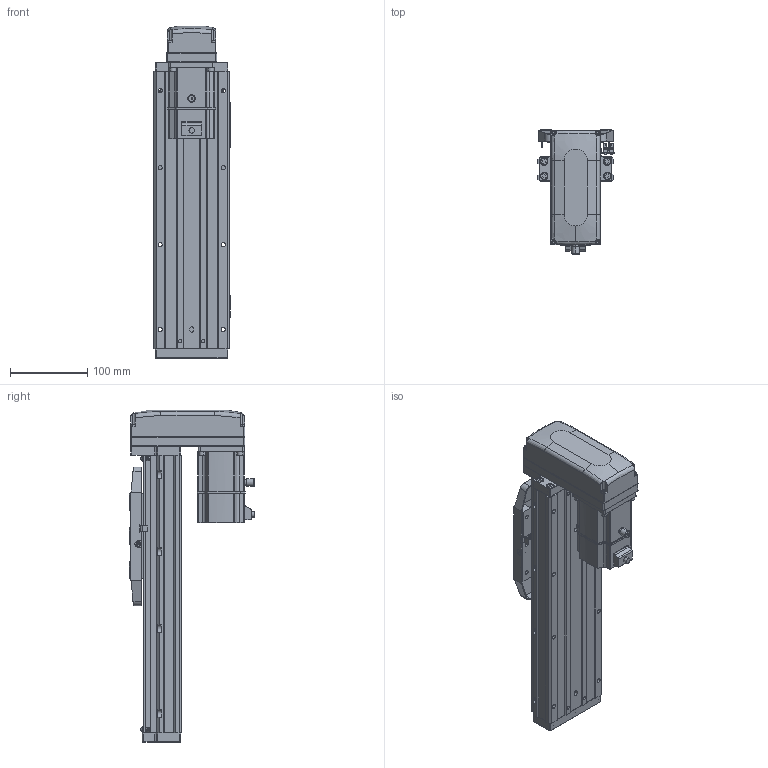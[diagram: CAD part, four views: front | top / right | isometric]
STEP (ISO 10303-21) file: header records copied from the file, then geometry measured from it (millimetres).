
FILE_DESCRIPTION (( 'STEP AP203' ), '1' );
FILE_NAME ('CTHA100-150-BM-M20-C4L.step', '2022-07-06T09:03:06', ( '微软用户' ), ( '微软中国' ), 'SwSTEP 2.0', 'SolidWorks 2020', '' );
FILE_SCHEMA (( 'CONFIG_CONTROL_DESIGN' ));
Length unit declared in the file: millimetre
Products named in the file (19): GBT 70.1-M3℅6; GBT 70.3-M3℅6; KTHA100-005; GBT70.1 M5℅16; CTHA86-015-1_CTHA86-015-2; GB¨uT 70.2-M3¡Á5_M3¡Á6; CTHA60-016; CTHA86-033; EE_SX911P_R; _X2_4E0983F1_X0_200W_1; CTHA100-150-BM-M20-C4L; CTHA60-017; CTHA100-002; CTHA60-021; CTHA100-031; KTHA100-001_360; GBT77-2000 M3×3; CTHA86-030; KTHA100-004
Assembly tree (64 placements, depth 2):
  CTHA100-150-BM-M20-C4L
    KTHA100-001_360
    KTHA100-004
    KTHA100-005
    GB¨uT 70.2-M3¡Á5_M3¡Á6  x10
    EE_SX911P_R  x3
    CTHA60-017  x3
    CTHA60-021  x2
    GBT77-2000 M3×3  x6
    GBT 70.1-M3℅6  x10
    GBT70.1 M5℅16  x14
    CTHA60-016  x2
    _X2_4E0983F1_X0_200W_1
    CTHA100-002
    CTHA100-031
    CTHA86-030  x2
    GBT 70.3-M3℅6  x4
    CTHA86-015-1_CTHA86-015-2
    CTHA86-033
Bounding box: 98.82 x 163.2 x 431 mm (x, y, z)
Volume: 2249299.8 mm3; surface area: 406971.5 mm2
Topology: 66 solids, 66 shells, 2589 faces, 6191 edges, 3832 vertices
Faces by surface type: plane 1344, cylinder 677, cone 345, torus 124, bspline 75, sphere 24
Entity records: 43408 total; most frequent: CARTESIAN_POINT 8587, DIRECTION 6654, ORIENTED_EDGE 6498, EDGE_CURVE 3249, AXIS2_PLACEMENT_3D 2271, LINE 2112, VECTOR 2112, VERTEX_POINT 2052
